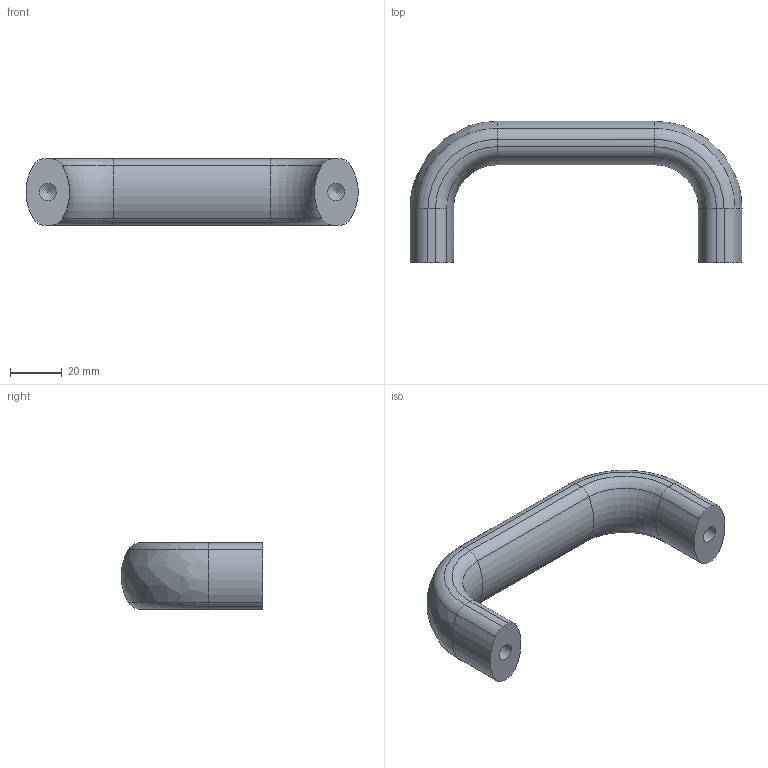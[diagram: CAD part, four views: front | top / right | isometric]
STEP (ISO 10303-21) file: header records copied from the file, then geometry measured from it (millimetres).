
FILE_DESCRIPTION( ( 'STEP AP203' ), '1' );
FILE_NAME( 'C:/Temp/Ganter_Step_05_03_2020/data/1_2/gn_565/Cabinet ''''U'''' handle GN 565-26-112-EL.stp', '2020-03-05T10:08:52', ( 'License CC BY-ND 4.0' ), ( 'CADENAS' ), ' ', 'PARTsolutions', ' ' );
FILE_SCHEMA( ( 'CONFIG_CONTROL_DESIGN' ) );
Length unit declared in the file: millimetre
Products named in the file (1): _Cabinet ''U'' handle GN 565-26-112-EL
Bounding box: 128.88 x 54.99 x 25.99 mm (x, y, z)
Volume: 64281.3 mm3; surface area: 14020.3 mm2
Topology: 1 solids, 1 shells, 52 faces, 130 edges, 80 vertices
Faces by surface type: cylinder 26, torus 14, plane 8, cone 2, bspline 2
Full cylindrical faces by diameter (mm): 6.647 x2
Entity records: 1648 total; most frequent: CARTESIAN_POINT 341, DIRECTION 302, ORIENTED_EDGE 248, AXIS2_PLACEMENT_3D 139, EDGE_CURVE 124, CIRCLE 88, VERTEX_POINT 80, EDGE_LOOP 56
